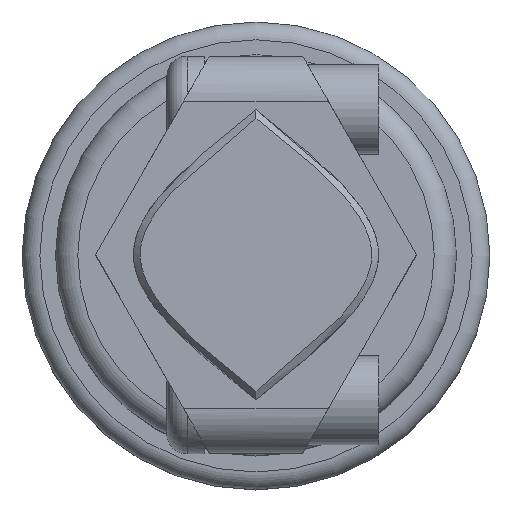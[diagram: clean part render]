
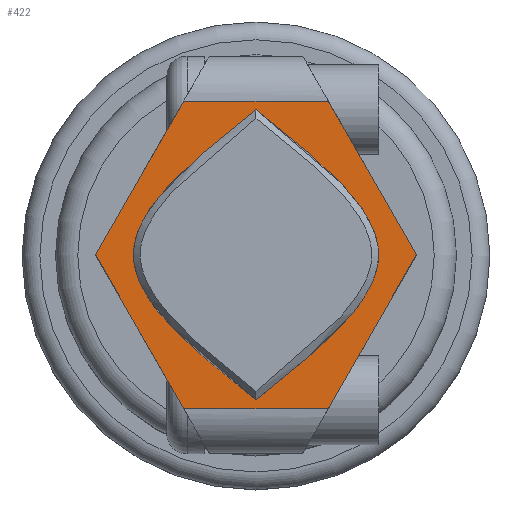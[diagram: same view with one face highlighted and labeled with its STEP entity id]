
A CAD part, top view. The second image highlights one B-rep face of the part: STEP entity #422.
In plain terms, the highlighted planar face has unit normal (0, 0, 1).
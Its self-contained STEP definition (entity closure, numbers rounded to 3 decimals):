
#1 = VECTOR ( 'NONE', #191, 1000. ) ;
#19 = CARTESIAN_POINT ( 'NONE',  ( -2.1, -8.9, 41. ) ) ;
#48 = CARTESIAN_POINT ( 'NONE',  ( -7.2, 0., 41. ) ) ;
#60 = VERTEX_POINT ( 'NONE', #300 ) ;
#68 = LINE ( 'NONE', #271, #1941 ) ;
#101 = EDGE_LOOP ( 'NONE', ( #1104, #1111, #2239, #1473, #2416, #1743 ) ) ;
#127 = VERTEX_POINT ( 'NONE', #901 ) ;
#176 = CARTESIAN_POINT ( 'NONE',  ( 0., -6.5, 41. ) ) ;
#189 = CARTESIAN_POINT ( 'NONE',  ( 0., -6.5, 41. ) ) ;
#191 = DIRECTION ( 'NONE',  ( 1., 0., 0. ) ) ;
#218 = CARTESIAN_POINT ( 'NONE',  ( 0., 6.5, 41. ) ) ;
#264 = DIRECTION ( 'NONE',  ( -1., 0., 0. ) ) ;
#271 = CARTESIAN_POINT ( 'NONE',  ( -2.1, 8.9, 41. ) ) ;
#279 = EDGE_CURVE ( 'NONE', #1579, #60, #767, .T. ) ;
#287 = VECTOR ( 'NONE', #264, 1000. ) ;
#300 = CARTESIAN_POINT ( 'NONE',  ( 3.246, -6.9, 41. ) ) ;
#347 = ORIENTED_EDGE ( 'NONE', *, *, #1560, .F. ) ;
#422 = ADVANCED_FACE ( 'NONE', ( #433, #621 ), #1951, .F. ) ;
#433 = FACE_OUTER_BOUND ( 'NONE', #101, .T. ) ;
#444 = CARTESIAN_POINT ( 'NONE',  ( -2.1, -8.9, 41. ) ) ;
#572 = CARTESIAN_POINT ( 'NONE',  ( 2.75, -4.333, 41. ) ) ;
#584 = CARTESIAN_POINT ( 'NONE',  ( -2.1, -6.9, 41. ) ) ;
#621 = FACE_BOUND ( 'NONE', #1713, .T. ) ;
#685 = EDGE_CURVE ( 'NONE', #772, #941, #1676, .T. ) ;
#696 = CARTESIAN_POINT ( 'NONE',  ( 2.1, 8.9, 41. ) ) ;
#698 = CARTESIAN_POINT ( 'NONE',  ( -3.246, 6.9, 41. ) ) ;
#767 = LINE ( 'NONE', #584, #1 ) ;
#772 = VERTEX_POINT ( 'NONE', #1886 ) ;
#823 = LINE ( 'NONE', #1209, #287 ) ;
#836 = EDGE_CURVE ( 'NONE', #127, #956, #823, .T. ) ;
#873 = VECTOR ( 'NONE', #2132, 1000. ) ;
#901 = CARTESIAN_POINT ( 'NONE',  ( 3.246, 6.9, 41. ) ) ;
#941 = VERTEX_POINT ( 'NONE', #1849 ) ;
#956 = VERTEX_POINT ( 'NONE', #698 ) ;
#1033 = DIRECTION ( 'NONE',  ( -0.497, -0.868, 0. ) ) ;
#1072 = CARTESIAN_POINT ( 'NONE',  ( -8.25, 0., 41. ) ) ;
#1104 = ORIENTED_EDGE ( 'NONE', *, *, #1852, .T. ) ;
#1111 = ORIENTED_EDGE ( 'NONE', *, *, #836, .T. ) ;
#1166 = CARTESIAN_POINT ( 'NONE',  ( 2.75, 4.333, 41. ) ) ;
#1199 = DIRECTION ( 'NONE',  ( -1., 0., 0. ) ) ;
#1209 = CARTESIAN_POINT ( 'NONE',  ( -2.1, 6.9, 41. ) ) ;
#1234 = EDGE_CURVE ( 'NONE', #60, #2008, #2387, .T. ) ;
#1272 = ORIENTED_EDGE ( 'NONE', *, *, #685, .F. ) ;
#1390 = VECTOR ( 'NONE', #2393, 1000. ) ;
#1473 = ORIENTED_EDGE ( 'NONE', *, *, #2377, .T. ) ;
#1560 = EDGE_CURVE ( 'NONE', #941, #772, #2307, .T. ) ;
#1579 = VERTEX_POINT ( 'NONE', #2303 ) ;
#1656 = LINE ( 'NONE', #696, #1390 ) ;
#1676 = B_SPLINE_CURVE_WITH_KNOTS ( 'NONE', 3,
 ( #189, #572, #1696, #1166, #218 ),
 .UNSPECIFIED., .F., .F.,
 ( 4, 1, 4 ),
 ( 0., 0.5, 1. ),
 .UNSPECIFIED. ) ;
#1696 = CARTESIAN_POINT ( 'NONE',  ( 8.25, 0., 41. ) ) ;
#1713 = EDGE_LOOP ( 'NONE', ( #1272, #347 ) ) ;
#1743 = ORIENTED_EDGE ( 'NONE', *, *, #1234, .T. ) ;
#1778 = VERTEX_POINT ( 'NONE', #48 ) ;
#1781 = VECTOR ( 'NONE', #2005, 1000. ) ;
#1815 = CARTESIAN_POINT ( 'NONE',  ( 2.1, -8.9, 41. ) ) ;
#1849 = CARTESIAN_POINT ( 'NONE',  ( 0., 6.5, 41. ) ) ;
#1852 = EDGE_CURVE ( 'NONE', #2008, #127, #1656, .T. ) ;
#1886 = CARTESIAN_POINT ( 'NONE',  ( 0., -6.5, 41. ) ) ;
#1940 = LINE ( 'NONE', #19, #873 ) ;
#1941 = VECTOR ( 'NONE', #1033, 1000. ) ;
#1951 = PLANE ( 'NONE',  #2321 ) ;
#2005 = DIRECTION ( 'NONE',  ( 0.497, 0.868, 0. ) ) ;
#2008 = VERTEX_POINT ( 'NONE', #2093 ) ;
#2093 = CARTESIAN_POINT ( 'NONE',  ( 7.2, 0., 41. ) ) ;
#2132 = DIRECTION ( 'NONE',  ( 0.497, -0.868, 0. ) ) ;
#2191 = CARTESIAN_POINT ( 'NONE',  ( 0., 6.5, 41. ) ) ;
#2239 = ORIENTED_EDGE ( 'NONE', *, *, #2418, .T. ) ;
#2270 = CARTESIAN_POINT ( 'NONE',  ( -2.75, -4.333, 41. ) ) ;
#2280 = CARTESIAN_POINT ( 'NONE',  ( -2.75, 4.333, 41. ) ) ;
#2303 = CARTESIAN_POINT ( 'NONE',  ( -3.246, -6.9, 41. ) ) ;
#2307 = B_SPLINE_CURVE_WITH_KNOTS ( 'NONE', 3,
 ( #2191, #2280, #1072, #2270, #176 ),
 .UNSPECIFIED., .F., .F.,
 ( 4, 1, 4 ),
 ( 0., 0.5, 1. ),
 .UNSPECIFIED. ) ;
#2321 = AXIS2_PLACEMENT_3D ( 'NONE', #444, #2372, #1199 ) ;
#2372 = DIRECTION ( 'NONE',  ( 0., 0., -1. ) ) ;
#2377 = EDGE_CURVE ( 'NONE', #1778, #1579, #1940, .T. ) ;
#2387 = LINE ( 'NONE', #1815, #1781 ) ;
#2393 = DIRECTION ( 'NONE',  ( -0.497, 0.868, 0. ) ) ;
#2416 = ORIENTED_EDGE ( 'NONE', *, *, #279, .T. ) ;
#2418 = EDGE_CURVE ( 'NONE', #956, #1778, #68, .T. ) ;
